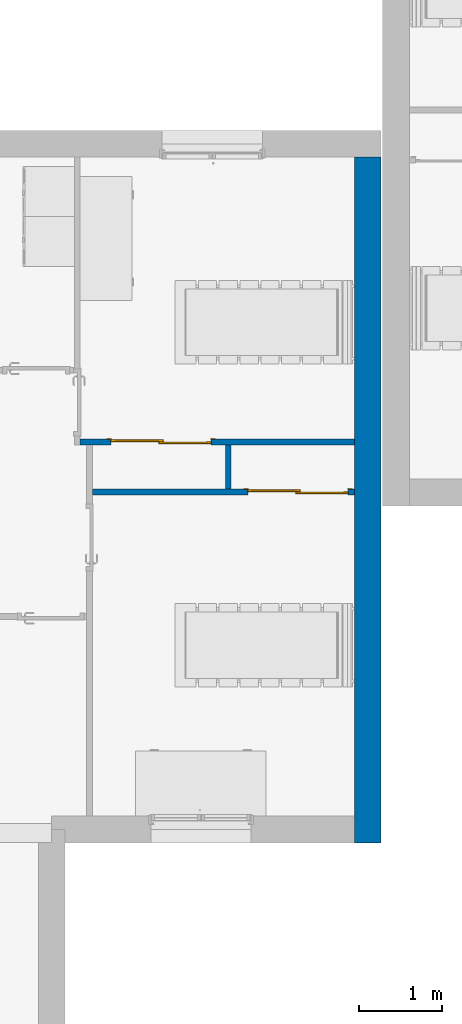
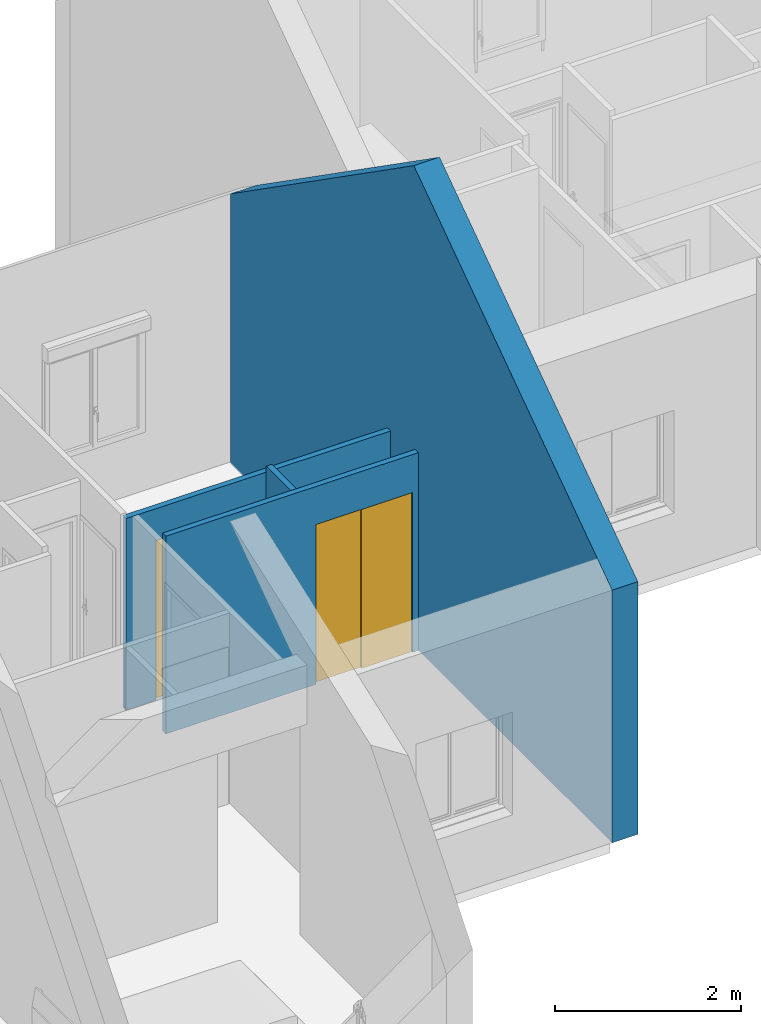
# One storey, part 17 of 61: 4 walls, 2 doors, 2 openings.
"""IFC2X3 building model written with IfcOpenShell, lengths in metres."""

from ifc_helpers import new_model, entity, si_unit, converted_unit, derived_unit, direction, frame, frame_2d, origin, origin_2d_with_axis, place, context, subcontext, project, spatial, polyline, circle_curve, parameter, trimmed, segment, composite_curve, rectangle, outline, extrude, clip, bounded_halfspace, source, transform, mapped, material, material_list, layer, layer_set, layer_usage, type_object, type_shapes, element, fill, save


model = new_model("IFC2X3")

# Units and contexts
model_context = context("Model", 3, precision=1e-05, world=origin(), true_north=direction((6.12303176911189e-17, 1.0)))
body_context = subcontext(model_context, "Body", "Model", "MODEL_VIEW")
ifc_project = project(units=[si_unit("LENGTHUNIT", "METRE"), si_unit("AREAUNIT", "SQUARE_METRE"), si_unit("VOLUMEUNIT", "CUBIC_METRE"), converted_unit("PLANEANGLEUNIT", "DEGREE", entity("IfcRatioMeasure", 0.0174532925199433), si_unit("PLANEANGLEUNIT", "RADIAN"), dimensions=[0, 0, 0, 0, 0, 0, 0]), si_unit("MASSUNIT", "GRAM", prefix="KILO"), derived_unit("MASSDENSITYUNIT", [(si_unit("MASSUNIT", "GRAM", prefix="KILO"), 1), (si_unit("LENGTHUNIT", "METRE"), -3)]), si_unit("TIMEUNIT", "SECOND"), si_unit("FREQUENCYUNIT", "HERTZ"), si_unit("THERMODYNAMICTEMPERATUREUNIT", "DEGREE_CELSIUS"), derived_unit("THERMALTRANSMITTANCEUNIT", [(si_unit("MASSUNIT", "GRAM", prefix="KILO"), 1), (si_unit("THERMODYNAMICTEMPERATUREUNIT", "KELVIN"), -1), (si_unit("TIMEUNIT", "SECOND"), -3)]), derived_unit("VOLUMETRICFLOWRATEUNIT", [(si_unit("LENGTHUNIT", "METRE"), 3), (si_unit("TIMEUNIT", "SECOND"), -1)]), si_unit("ELECTRICCURRENTUNIT", "AMPERE"), si_unit("ELECTRICVOLTAGEUNIT", "VOLT"), si_unit("POWERUNIT", "WATT"), si_unit("FORCEUNIT", "NEWTON", prefix="KILO"), si_unit("ILLUMINANCEUNIT", "LUX"), si_unit("LUMINOUSFLUXUNIT", "LUMEN"), si_unit("LUMINOUSINTENSITYUNIT", "CANDELA"), derived_unit("USERDEFINED", [(si_unit("MASSUNIT", "GRAM", prefix="KILO"), -1), (si_unit("LENGTHUNIT", "METRE"), -2), (si_unit("TIMEUNIT", "SECOND"), 3), (si_unit("LUMINOUSFLUXUNIT", "LUMEN"), 1)]), derived_unit("LINEARVELOCITYUNIT", [(si_unit("LENGTHUNIT", "METRE"), 1), (si_unit("TIMEUNIT", "SECOND"), -1)]), si_unit("PRESSUREUNIT", "PASCAL"), derived_unit("USERDEFINED", [(si_unit("LENGTHUNIT", "METRE"), -2), (si_unit("MASSUNIT", "GRAM", prefix="KILO"), 1), (si_unit("TIMEUNIT", "SECOND"), -2)])], contexts=[model_context])

# Site, building, storey
site_placement = place(None, origin())
site = spatial("IfcSite", under=ifc_project, at=site_placement, Name="Surface", CompositionType="ELEMENT")
building_placement = place(site_placement, origin())
building = spatial("IfcBuilding", under=site, at=building_placement, CompositionType="ELEMENT")
storey_placement = place(building_placement, frame((0.0, 0.0, 2.82)))
storey = spatial("IfcBuildingStorey", under=building, at=storey_placement, Name="ETAGE", CompositionType="ELEMENT", Elevation=2.82)

# Wall
ifc_material_1 = material(Name="Enduit blanc cassé2")
ifc_layer_1 = layer(ifc_material_1, 0.02)
ifc_material_2 = material(Name="Parpaing")
ifc_layer_2 = layer(ifc_material_2, 0.2)
ifc_material_3 = material(Name="Isolant")
ifc_layer_3 = layer(ifc_material_3, 0.1)
ifc_layer_set_1 = layer_set([ifc_layer_1, ifc_layer_2, ifc_layer_3], Name="Mur de base:Ext. Parpaing 20 + Isolant 10 enduit blanc cassé")
ifc_layer_usage_1 = layer_usage(ifc_layer_set_1, "AXIS2", "NEGATIVE", 0.16)
wall_type_1 = type_object("IfcWallType", Name="Mur de base:Ext. Parpaing 20 + Isolant 10 enduit blanc cassé", PredefinedType="STANDARD", material=ifc_layer_set_1)
wall_1_placement = place(storey_placement, frame((76.122889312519, 88.1077566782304, 0.0), z_axis=(0.0, 0.0, 1.0), x_axis=(0.0, -1.0, 0.0)))
element("IfcWallStandardCase", 1, at=wall_1_placement, inside=storey, type_object=wall_type_1, material=ifc_layer_usage_1, Name="Mur de base:Ext. Parpaing 20 + Isolant 10 enduit blanc cassé", ObjectType="Mur de base:Ext. Parpaing 20 + Isolant 10 enduit blanc cassé", context=body_context, shape_type="Clipping", body=[
    clip(clip(extrude(rectangle(XDim=8.22, YDim=0.319999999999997, at=frame_2d((4.11, 5.55111512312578e-16), x_axis=(-1.0, 0.0))), origin(), (0.0, 0.0, 1.0), 6.30988618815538), bounded_halfspace(frame((0.0, -0.159999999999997, 3.5440664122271), z_axis=(-0.573576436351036, 0.0, 0.819152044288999), x_axis=(0.0, -1.0, 0.0)), False, frame((0.0, -0.159999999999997, 3.5440664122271)), polyline([(0.0, 0.0), (3.95, 0.0), (3.95, 0.319999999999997), (0.0, 0.319999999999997), (0.0, 0.0)]))), bounded_halfspace(frame((3.95, -0.159999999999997, 6.30988618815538), z_axis=(0.573576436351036, 0.0, 0.819152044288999), x_axis=(0.0, 1.0, 0.0)), False, frame((3.95, -0.159999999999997, 6.30988618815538)), polyline([(0.0, 0.0), (3.95, 0.0), (4.27, 0.0), (4.27, 0.319999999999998), (0.0, 0.319999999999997), (0.0, 0.0)]))),
])

# Wall, opening, door
ifc_material_4 = material(Name="Peinture - Blanc")
ifc_layer_4 = layer(ifc_material_4, 0.07)
ifc_layer_set_2 = layer_set([ifc_layer_4], Name="Mur de base:Int.  Platre 70 mm en blanc")
ifc_layer_usage_2 = layer_usage(ifc_layer_set_2, "AXIS2", "NEGATIVE", 0.035)
wall_type_2 = type_object("IfcWallType", Name="Mur de base:Int.  Platre 70 mm en blanc", PredefinedType="STANDARD", material=ifc_layer_set_2)
wall_2_placement = place(storey_placement, frame((72.6767429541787, 84.6927566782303, 0.0)))
wall_2 = element("IfcWallStandardCase", 2, at=wall_2_placement, inside=storey, type_object=wall_type_2, material=ifc_layer_usage_2, Name="Mur de base:Int.  Platre 70 mm en blanc", ObjectType="Mur de base:Int.  Platre 70 mm en blanc", context=body_context, shape_type="SweptSolid", body=[
    extrude(rectangle(XDim=3.28614635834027, YDim=0.0699999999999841, at=frame_2d((1.64307317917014, 2.15105711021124e-16), x_axis=(-1.0, 0.0))), origin(), (0.0, 0.0, 1.0), 2.52),
])
opening_1_placement = place(wall_2_placement, frame((0.368699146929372, -0.0350000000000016, 0.0)))
opening_1 = element("IfcOpeningElement", 3, at=opening_1_placement, cuts=wall_2, Name="Placard coulissante - 2 panneaux:Placard coulissante - 2 panneaux:1", ObjectType="Opening", context=body_context, shape_type="SweptSolid", body=[
    extrude(rectangle(XDim=2.09999999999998, YDim=1.2, at=frame_2d((1.04999999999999, 0.600000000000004), x_axis=(1.0, 0.0))), frame((0.0, 0.0, 0.0), z_axis=(0.0, 1.0, 0.0), x_axis=(0.0, 0.0, 1.0)), (0.0, 0.0, 1.0), 0.07),
])
ifc_material_5 = material(Name="Placard - Profil")
ifc_material_6 = material(Name="Placard - Encadrement")
ifc_material_7 = material(Name="Placard - Porte")
ifc_material_list_1 = material_list([ifc_material_5, ifc_material_6, ifc_material_7])
ifc_material_list_2 = material_list([ifc_material_5, ifc_material_6, ifc_material_7])
door_style = type_object("IfcDoorStyle", Name="Placard coulissante - 2 panneaux", ConstructionType="NOTDEFINED", OperationType="NOTDEFINED", ParameterTakesPrecedence=False, Sizeable=False, material=ifc_material_list_2)
shared_shape = source(origin(), body_context, "Body", "SweptSolid", [
    extrude(outline(composite_curve([segment(polyline([(-0.0250000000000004, -0.00100000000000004), (0.0249999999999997, -0.00100000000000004)]), True, "CONTINUOUS"), segment(polyline([(0.0249999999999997, -0.00100000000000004), (0.0249999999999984, 0.00100000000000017)]), True, "CONTINUOUS"), segment(trimmed(circle_curve(frame_2d((0.0, -0.212860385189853), x_axis=(-1.0, 0.0)), 0.215316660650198), [parameter(263.332459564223)], [parameter(276.667540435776)], True, "PARAMETER"), True, "CONTINUOUS"), segment(polyline([(-0.0250000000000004, 0.00100000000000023), (-0.0250000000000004, -0.00100000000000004)]), True, "CONTINUOUS")], self_intersect=False)), frame((1.175, 0.00900000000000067, 0.0), z_axis=(0.0, 0.0, 1.0), x_axis=(-1.0, 0.0, 0.0)), (0.0, 0.0, 1.0), 2.1),
    extrude(outline(composite_curve([segment(polyline([(-0.0250000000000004, -0.00100000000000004), (0.0249999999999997, -0.00100000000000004)]), True, "CONTINUOUS"), segment(polyline([(0.0249999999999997, -0.00100000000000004), (0.0249999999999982, 0.00100000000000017)]), True, "CONTINUOUS"), segment(trimmed(circle_curve(frame_2d((0.0, -0.212860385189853), x_axis=(-1.0, 0.0)), 0.215316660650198), [parameter(263.332459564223)], [parameter(276.667540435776)], True, "PARAMETER"), True, "CONTINUOUS"), segment(polyline([(-0.0250000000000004, 0.00100000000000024), (-0.0250000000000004, -0.00100000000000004)]), True, "CONTINUOUS")], self_intersect=False)), frame((0.599999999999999, 0.00900000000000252, 0.0), z_axis=(0.0, 0.0, 1.0), x_axis=(-1.0, 0.0, 0.0)), (0.0, 0.0, 1.0), 2.1),
    extrude(outline(composite_curve([segment(polyline([(-0.0250000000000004, -0.00100000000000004), (0.0249999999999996, -0.00100000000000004)]), True, "CONTINUOUS"), segment(polyline([(0.0249999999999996, -0.00100000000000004), (0.0249999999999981, 0.00100000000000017)]), True, "CONTINUOUS"), segment(trimmed(circle_curve(frame_2d((0.0, -0.212860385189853), x_axis=(-1.0, 0.0)), 0.215316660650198), [parameter(263.332459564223)], [parameter(276.667540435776)], True, "PARAMETER"), True, "CONTINUOUS"), segment(polyline([(-0.0250000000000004, 0.00100000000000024), (-0.0250000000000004, -0.00100000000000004)]), True, "CONTINUOUS")], self_intersect=False)), frame((0.599999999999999, 0.0340000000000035, 0.0), z_axis=(0.0, 0.0, 1.0), x_axis=(-1.0, 0.0, 0.0)), (0.0, 0.0, 1.0), 2.1),
    extrude(outline(composite_curve([segment(polyline([(-0.0250000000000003, -0.00100000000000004), (0.0249999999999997, -0.00100000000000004)]), True, "CONTINUOUS"), segment(polyline([(0.0249999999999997, -0.00100000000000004), (0.0249999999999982, 0.00100000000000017)]), True, "CONTINUOUS"), segment(trimmed(circle_curve(frame_2d((0.0, -0.212860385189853), x_axis=(-1.0, 0.0)), 0.215316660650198), [parameter(263.332459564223)], [parameter(276.667540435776)], True, "PARAMETER"), True, "CONTINUOUS"), segment(polyline([(-0.0250000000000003, 0.00100000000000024), (-0.0250000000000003, -0.00100000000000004)]), True, "CONTINUOUS")], self_intersect=False)), frame((0.0250000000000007, 0.0340000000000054, 0.0), z_axis=(0.0, 0.0, 1.0), x_axis=(-1.0, 0.0, 0.0)), (0.0, 0.0, 1.0), 2.1),
    extrude(outline(polyline([(-1.06149999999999, -0.647999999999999), (1.08649999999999, -0.647999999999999), (1.08649999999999, 0.647999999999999), (-1.06149999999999, 0.647999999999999), (-1.06149999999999, 0.597999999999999), (1.03649999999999, 0.597999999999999), (1.03649999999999, -0.597999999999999), (-1.06149999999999, -0.597999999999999), (-1.06149999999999, -0.647999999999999)])), frame((0.6, -0.003, 1.06149999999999), z_axis=(0.0, 1.0, 0.0), x_axis=(0.0, 0.0, 1.0)), (0.0, 0.0, 1.0), 0.003),
    extrude(rectangle(XDim=0.020000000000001, YDim=0.625000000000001, at=origin_2d_with_axis()), frame((0.8875, 0.0200000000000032, 0.0), z_axis=(0.0, 0.0, 1.0), x_axis=(0.0, 1.0, 0.0)), (0.0, 0.0, 1.0), 2.1),
    extrude(rectangle(XDim=0.02, YDim=0.624999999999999, at=origin_2d_with_axis()), frame((0.3125, 0.0450000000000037, 0.0), z_axis=(0.0, 0.0, 1.0), x_axis=(0.0, 1.0, 0.0)), (0.0, 0.0, 1.0), 2.1),
])
type_shapes(door_style, [shared_shape])
door_1_placement = place(opening_1_placement, frame((1.2, 0.0699999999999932, 0.0), z_axis=(0.0, 0.0, 1.0), x_axis=(-1.0, 0.0, 0.0)))
door_1 = element("IfcDoor", 4, at=door_1_placement, inside=storey, type_object=door_style, material=ifc_material_list_1, Name="Placard coulissante - 2 panneaux:Placard coulissante - 2 panneaux", ObjectType="Placard coulissante - 2 panneaux:Placard coulissante - 2 panneaux", OverallHeight=2.09999999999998, OverallWidth=1.2, context=body_context, shape_type="MappedRepresentation", body=[
    mapped(shared_shape, transform((0.0, 0.0, 0.0), scale=1.0)),
])
fill(opening_1, door_1)

ifc_layer_usage_3 = layer_usage(ifc_layer_set_2, "AXIS2", "NEGATIVE", 0.035)
wall_3_placement = place(storey_placement, frame((72.8246263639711, 84.0927566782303, 0.0)))
wall_3 = element("IfcWallStandardCase", 5, at=wall_3_placement, inside=storey, type_object=wall_type_2, material=ifc_layer_usage_3, Name="Mur de base:Int.  Platre 70 mm en blanc", ObjectType="Mur de base:Int.  Platre 70 mm en blanc", context=body_context, shape_type="SweptSolid", body=[
    extrude(rectangle(XDim=3.1382629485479, YDim=0.0699999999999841, at=frame_2d((1.56913147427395, -8.53483950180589e-16), x_axis=(-1.0, 0.0))), origin(), (0.0, 0.0, 1.0), 2.6),
])
opening_2_placement = place(wall_3_placement, frame((1.86326294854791, -0.0350000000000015, 0.0)))
opening_2 = element("IfcOpeningElement", 6, at=opening_2_placement, cuts=wall_3, Name="Placard coulissante - 2 panneaux:Placard coulissante - 2 panneaux:1", ObjectType="Opening", context=body_context, shape_type="SweptSolid", body=[
    extrude(rectangle(XDim=2.09999999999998, YDim=1.2, at=frame_2d((1.04999999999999, 0.600000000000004), x_axis=(1.0, 0.0))), frame((0.0, 0.0, 0.0), z_axis=(0.0, 1.0, 0.0), x_axis=(0.0, 0.0, 1.0)), (0.0, 0.0, 1.0), 0.07),
])
ifc_material_list_3 = material_list([ifc_material_5, ifc_material_6, ifc_material_7])
door_2_placement = place(opening_2_placement, frame((1.2, 0.0699999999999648, 0.0), z_axis=(0.0, 0.0, 1.0), x_axis=(-1.0, 0.0, 0.0)))
door_2 = element("IfcDoor", 7, at=door_2_placement, inside=storey, type_object=door_style, material=ifc_material_list_3, Name="Placard coulissante - 2 panneaux:Placard coulissante - 2 panneaux", ObjectType="Placard coulissante - 2 panneaux:Placard coulissante - 2 panneaux", OverallHeight=2.09999999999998, OverallWidth=1.2, context=body_context, shape_type="MappedRepresentation", body=[
    mapped(shared_shape, transform((0.0, 0.0, 0.0), scale=1.0)),
])
fill(opening_2, door_2)

# Wall
ifc_layer_usage_4 = layer_usage(ifc_layer_set_2, "AXIS2", "NEGATIVE", 0.035)
wall_4_placement = place(storey_placement, frame((74.451257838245, 84.1277566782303, 0.0), z_axis=(0.0, 0.0, 1.0), x_axis=(0.0, 1.0, 0.0)))
element("IfcWallStandardCase", 8, at=wall_4_placement, inside=storey, type_object=wall_type_2, material=ifc_layer_usage_4, Name="Mur de base:Int.  Platre 70 mm en blanc", ObjectType="Mur de base:Int.  Platre 70 mm en blanc", context=body_context, shape_type="SweptSolid", body=[
    extrude(rectangle(XDim=0.529999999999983, YDim=0.0700000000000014, at=frame_2d((0.264999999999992, 0.0), x_axis=(-1.0, 0.0))), origin(), (0.0, 0.0, 1.0), 2.6),
])

save(model, "model.ifc")
